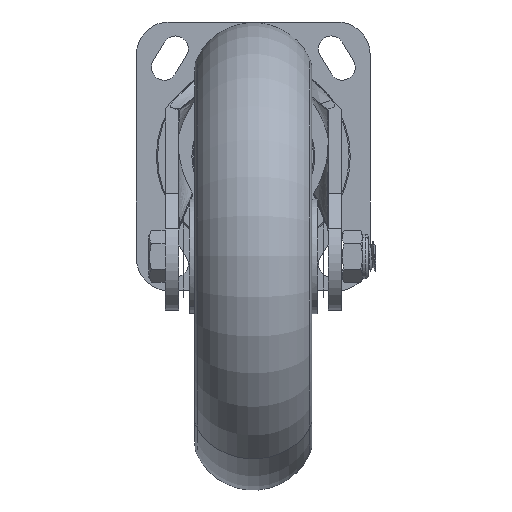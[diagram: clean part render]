
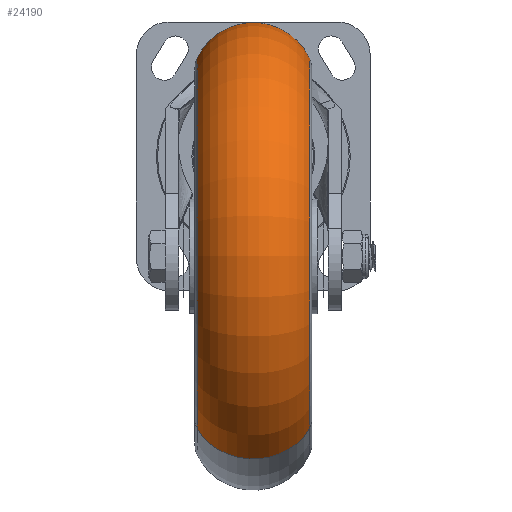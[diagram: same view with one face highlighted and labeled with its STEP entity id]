
A CAD part, front view. The second image highlights one B-rep face of the part: STEP entity #24190.
In plain terms, the highlighted toroidal (fillet/blend) face has major radius 73.401 mm and minor radius 26.599 mm.
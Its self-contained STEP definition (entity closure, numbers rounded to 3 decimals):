
#17191=CARTESIAN_POINT('',(-24.037,-121.8,-42.8));
#17192=DIRECTION('',(1.,0.,0.));
#17193=DIRECTION('',(0.,0.5,0.866));
#17194=AXIS2_PLACEMENT_3D('',#17191,#17192,#17193);
#19357=CARTESIAN_POINT('',(24.037,-121.8,-42.8));
#19358=DIRECTION('',(1.,0.,0.));
#19359=DIRECTION('',(0.,0.5,0.866));
#19360=AXIS2_PLACEMENT_3D('',#19357,#19358,#19359);
#19504=CARTESIAN_POINT('',(0.,-85.099,
20.767));
#19505=DIRECTION('',(0.,-0.866,0.5));
#19506=DIRECTION('',(0.904,0.214,0.371));
#19507=AXIS2_PLACEMENT_3D('',#19504,#19505,#19506);
#19509=CARTESIAN_POINT('',(0.,-158.501,
-106.367));
#19510=DIRECTION('',(0.,0.866,-0.5));
#19511=DIRECTION('',(0.904,-0.214,-0.371));
#19512=AXIS2_PLACEMENT_3D('',#19509,#19510,#19511);
#21699=CARTESIAN_POINT('',(-24.037,-79.404,
30.631));
#21701=VERTEX_POINT('',#21699);
#21736=CARTESIAN_POINT('',(24.037,-79.404,
30.631));
#21738=VERTEX_POINT('',#21736);
#21739=CARTESIAN_POINT('',(-24.037,-164.196,
-116.231));
#21741=VERTEX_POINT('',#21739);
#21776=CARTESIAN_POINT('',(24.037,-164.196,
-116.231));
#21778=VERTEX_POINT('',#21776);
#24177=CARTESIAN_POINT('',(0.,-121.8,-42.8));
#24178=DIRECTION('',(1.,0.,0.));
#24179=DIRECTION('',(0.,-0.5,-0.866));
#24180=AXIS2_PLACEMENT_3D('',#24177,#24178,#24179);
#24181=TOROIDAL_SURFACE('',#24180,73.401,26.599);
#24183=ORIENTED_EDGE('',*,*,#24182,.F.);
#24184=ORIENTED_EDGE('',*,*,#24165,.T.);
#24186=ORIENTED_EDGE('',*,*,#24185,.T.);
#24187=ORIENTED_EDGE('',*,*,#22918,.F.);
#24188=EDGE_LOOP('',(#24183,#24184,#24186,#24187));
#24189=FACE_OUTER_BOUND('',#24188,.F.);
#17195=CIRCLE('',#17194,84.791);
#19361=CIRCLE('',#19360,84.791);
#19508=CIRCLE('',#19507,26.599);
#19513=CIRCLE('',#19512,26.599);
#22918=EDGE_CURVE('',#21701,#21741,#17195,.T.);
#24165=EDGE_CURVE('',#21738,#21778,#19361,.T.);
#24182=EDGE_CURVE('',#21738,#21701,#19508,.T.);
#24185=EDGE_CURVE('',#21778,#21741,#19513,.T.);
#24190=ADVANCED_FACE('',(#24189),#24181,.T.);
